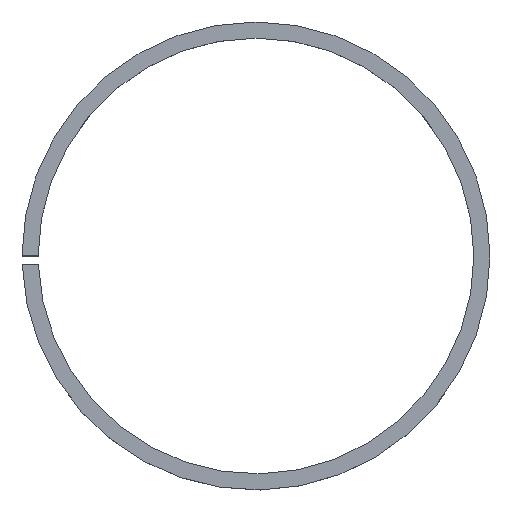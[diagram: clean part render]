
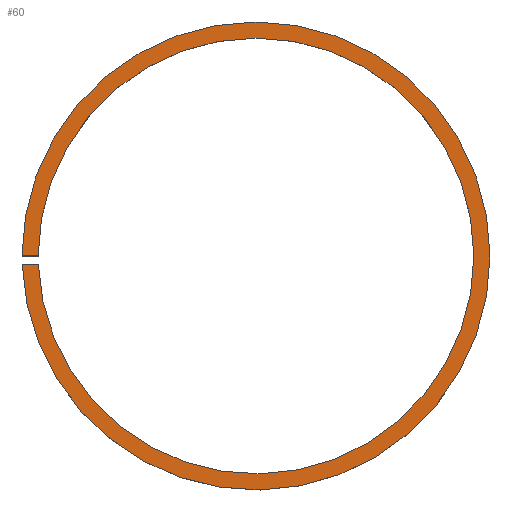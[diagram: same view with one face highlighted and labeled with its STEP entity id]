
A CAD part, top view. The second image highlights one B-rep face of the part: STEP entity #60.
In plain terms, the highlighted planar face has unit normal (0, 0, 1).
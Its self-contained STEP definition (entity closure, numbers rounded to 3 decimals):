
#54=PLANE('',#192);
#60=ADVANCED_FACE('',(#68),#54,.T.);
#68=FACE_OUTER_BOUND('',#76,.F.);
#76=EDGE_LOOP('',(#90,#91,#92,#93,#94,#95));
#90=ORIENTED_EDGE('',*,*,#147,.F.);
#91=ORIENTED_EDGE('',*,*,#135,.T.);
#92=ORIENTED_EDGE('',*,*,#144,.T.);
#93=ORIENTED_EDGE('',*,*,#138,.T.);
#94=ORIENTED_EDGE('',*,*,#133,.T.);
#95=ORIENTED_EDGE('',*,*,#141,.F.);
#122=CIRCLE('',#182,27.);
#125=CIRCLE('',#185,29.);
#126=CIRCLE('',#186,27.);
#129=CIRCLE('',#189,29.);
#133=EDGE_CURVE('',#173,#172,#151,.T.);
#135=EDGE_CURVE('',#179,#176,#153,.T.);
#138=EDGE_CURVE('',#171,#173,#122,.T.);
#141=EDGE_CURVE('',#168,#172,#125,.T.);
#144=EDGE_CURVE('',#176,#171,#126,.T.);
#147=EDGE_CURVE('',#179,#168,#129,.T.);
#151=LINE('',#261,#161);
#153=LINE('',#263,#163);
#161=VECTOR('',#204,2.);
#163=VECTOR('',#206,2.001);
#168=VERTEX_POINT('',#246);
#171=VERTEX_POINT('',#249);
#172=VERTEX_POINT('',#250);
#173=VERTEX_POINT('',#251);
#176=VERTEX_POINT('',#254);
#179=VERTEX_POINT('',#257);
#182=AXIS2_PLACEMENT_3D('',#266,#209,#210);
#185=AXIS2_PLACEMENT_3D('',#269,#215,#216);
#186=AXIS2_PLACEMENT_3D('',#272,#219,#220);
#189=AXIS2_PLACEMENT_3D('',#275,#225,#226);
#192=AXIS2_PLACEMENT_3D('',#278,#231,#232);
#204=DIRECTION('',(-1.,0.,0.));
#206=DIRECTION('',(1.,0.,0.));
#209=DIRECTION('',(0.,0.,1.));
#210=DIRECTION('',(1.,0.,0.));
#215=DIRECTION('',(0.,0.,1.));
#216=DIRECTION('',(1.,0.,0.));
#219=DIRECTION('',(0.,0.,1.));
#220=DIRECTION('',(-0.999,-0.037,0.));
#225=DIRECTION('',(0.,0.,1.));
#226=DIRECTION('',(-0.999,-0.034,0.));
#231=DIRECTION('',(0.,0.,1.));
#232=DIRECTION('',(0.,-1.,0.));
#246=CARTESIAN_POINT('',(226.042,35.63,-3.5));
#249=CARTESIAN_POINT('',(224.042,35.63,-3.5));
#250=CARTESIAN_POINT('',(168.042,35.63,-3.5));
#251=CARTESIAN_POINT('',(170.042,35.63,-3.5));
#254=CARTESIAN_POINT('',(170.06,34.63,-3.5));
#257=CARTESIAN_POINT('',(168.059,34.63,-3.5));
#261=CARTESIAN_POINT('',(170.042,35.63,-3.5));
#263=CARTESIAN_POINT('',(168.059,34.63,-3.5));
#266=CARTESIAN_POINT('',(197.042,35.63,-3.5));
#269=CARTESIAN_POINT('',(197.042,35.63,-3.5));
#272=CARTESIAN_POINT('',(197.042,35.63,-3.5));
#275=CARTESIAN_POINT('',(197.042,35.63,-3.5));
#278=CARTESIAN_POINT('',(167.462,65.21,-3.5));
